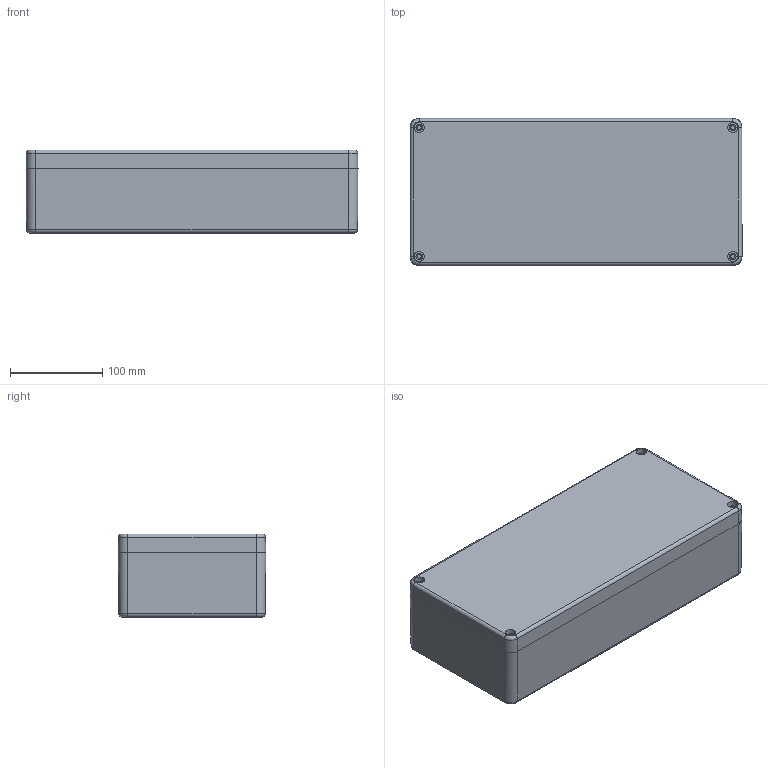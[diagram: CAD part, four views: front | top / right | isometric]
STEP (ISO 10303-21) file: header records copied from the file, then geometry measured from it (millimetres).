
FILE_DESCRIPTION (( 'STEP AP203' ), '1' );
FILE_NAME ('GRP ASSY 36016090.STEP', '2024-08-26T10:55:09', ( '' ), ( '' ), 'SwSTEP 2.0', 'SolidWorks 2018', '' );
FILE_SCHEMA (( 'CONFIG_CONTROL_DESIGN' ));
Length unit declared in the file: millimetre
Products named in the file (5): GRP LID 36016090; GRP ASSY 36016090; M6 BOTTOM INSERT; GRP BASE 36016090; M6 SS TOP INSERT
Assembly tree (12 placements, depth 2):
  GRP ASSY 36016090
    GRP BASE 36016090
    M6 BOTTOM INSERT  x6
    M6 SS TOP INSERT  x4
    GRP LID 36016090
Bounding box: 360 x 160 x 91 mm (x, y, z)
Volume: 1237546.2 mm3; surface area: 422927.8 mm2
Topology: 12 solids, 12 shells, 1148 faces, 2778 edges, 1727 vertices
Faces by surface type: plane 438, cylinder 288, bspline 198, cone 184, torus 40
Entity records: 33951 total; most frequent: CARTESIAN_POINT 14964, ORIENTED_EDGE 3980, DIRECTION 3457, EDGE_CURVE 1990, VERTEX_POINT 1247, AXIS2_PLACEMENT_3D 1205, VECTOR 1047, LINE 1047
